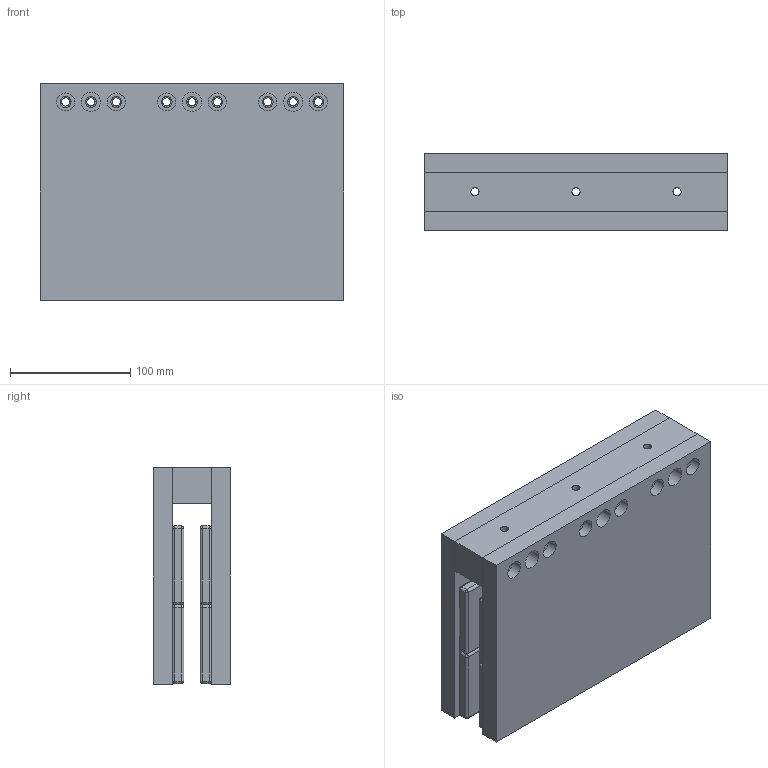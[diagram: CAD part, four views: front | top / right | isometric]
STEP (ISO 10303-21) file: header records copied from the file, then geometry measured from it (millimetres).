
FILE_DESCRIPTION (( 'STEP AP214' ), '1' );
FILE_NAME ('JKA6-252¶¨×Ó.STEP', '2025-09-05T12:51:51', ( '' ), ( '' ), 'SwSTEP 2.0', 'SolidWorks 2016', '' );
FILE_SCHEMA (( 'AUTOMOTIVE_DESIGN' ));
Length unit declared in the file: millimetre
Products named in the file (1): JKA6-252隅赽
Bounding box: 252 x 64.5 x 179.7 mm (x, y, z)
Volume: 2138059.1 mm3; surface area: 400903.3 mm2
Topology: 27 solids, 27 shells, 798 faces, 1764 edges, 840 vertices
Faces by surface type: cylinder 396, sphere 192, plane 180, cone 30
Entity records: 29180 total; most frequent: DIRECTION 3944, CARTESIAN_POINT 3283, ORIENTED_EDGE 3144, AXIS2_PLACEMENT_3D 1597, EDGE_CURVE 1572, EDGE_LOOP 876, VERTEX_POINT 840, UNCERTAINTY_MEASURE_WITH_UNIT 827
